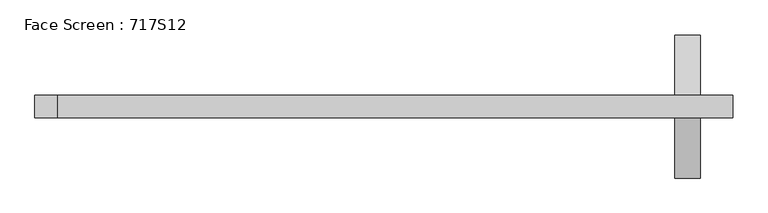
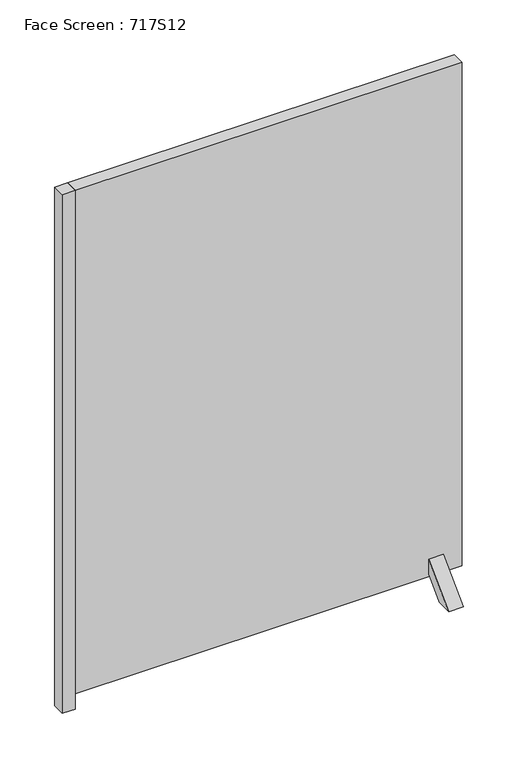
"""IFC4 building model written with IfcOpenShell, lengths in millimetres: furniture geometry, Face Screen : 717S12."""

from ifc_helpers import new_model, si_unit, frame, origin, origin_with_axes, place, context, project, spatial, polyline, outline, extrude, faceted_brep, source, transform, mapped, element, save


def face_screen_717s12_f170c9c9(model_context):
    return source(origin(), model_context, "Body", "SolidModel", [
        faceted_brep([(509.0, -20.0, 50.0955899), (509.0, 20.0, 50.0955899), (509.0, 20.0, 57.4960966), (509.0, 37.6776695, 39.8184271), (509.0, -37.6776695, 39.8184271), (509.0, -20.0, 57.4960966), (497.5, 126.9935713, 0.0), (497.5, 20.0, 106.9935713), (542.5, 20.0, 106.9935713), (542.5, 126.9935713, 0.0), (497.5, 77.4960966, 0.0), (542.5, 77.4960966, 0.0), (497.5, 20.0, 57.4960966), (542.5, 20.0, 57.4960966), (531.0, 20.0, 57.4960966), (531.0, 37.6776695, 39.8184271), (531.0, -20.0, 50.0955899), (531.0, -20.0, 57.4960966), (531.0, -37.6776695, 39.8184271), (531.0, 20.0, 50.0955899), (497.5, -20.0, 57.4960966), (497.5, -20.0, 106.9935713), (542.5, -20.0, 106.9935713), (542.5, -20.0, 57.4960966), (497.5, -77.4960966, 0.0), (497.5, -126.9935713, 0.0), (542.5, -126.9935713, 0.0), (542.5, -77.4960966, 0.0)], [[[0, 1, 2, 3, 4, 5]], [[6, 7, 8, 9]], [[10, 6, 9, 11]], [[12, 10, 11, 13, 14, 15, 3, 2]], [[16, 17, 18, 15, 14, 19]], [[1, 0, 16, 19]], [[2, 1, 19, 14, 13, 8, 7, 12]], [[4, 3, 15, 18]], [[0, 5, 20, 21, 22, 23, 17, 16]], [[21, 20, 24, 25]], [[7, 6, 10, 12]], [[8, 13, 11, 9]], [[22, 26, 27, 23]], [[24, 20, 5, 4, 18, 17, 23, 27]], [[25, 24, 27, 26]], [[21, 25, 26, 22]]]),
        extrude(outline(polyline([(-600.0, 20.0), (-600.0, -20.0), (-640.0, -20.0), (-640.0, 20.0), (-600.0, 20.0)])), origin_with_axes(), (0.0, 0.0, 1.0), 1700.0),
        extrude(outline(polyline([(600.0, -20.0), (-600.0, -20.0), (-600.0, 20.0), (600.0, 20.0), (600.0, -20.0)])), frame((0.0, 0.0, 50.0), z_axis=(0.0, 0.0, 1.0), x_axis=(1.0, 0.0, 0.0)), (0.0, 0.0, 1.0), 1650.0),
    ])


if __name__ == "__main__":
    model = new_model("IFC4")
    model_context = context("Model", 3, world=origin())
    ifc_project = project(units=[si_unit("LENGTHUNIT", "METRE", prefix="MILLI")], contexts=[model_context])
    site = spatial("IfcSite", under=ifc_project)
    building = spatial("IfcBuilding", under=site)
    placement = place(None, origin())
    face_screen_717s12_shape = face_screen_717s12_f170c9c9(model_context)
    element("IfcFurniture", 1, ObjectType="Face Screen : 717S12", at=placement, inside=building, context=model_context, shape_type="MappedRepresentation", body=[
        mapped(face_screen_717s12_shape, transform((0.0, 0.0, 0.0), x_axis=(1.0, 0.0, 0.0), y_axis=(0.0, 1.0, 0.0), z_axis=(0.0, 0.0, 1.0))),
    ])
    save(model, "model.ifc")
